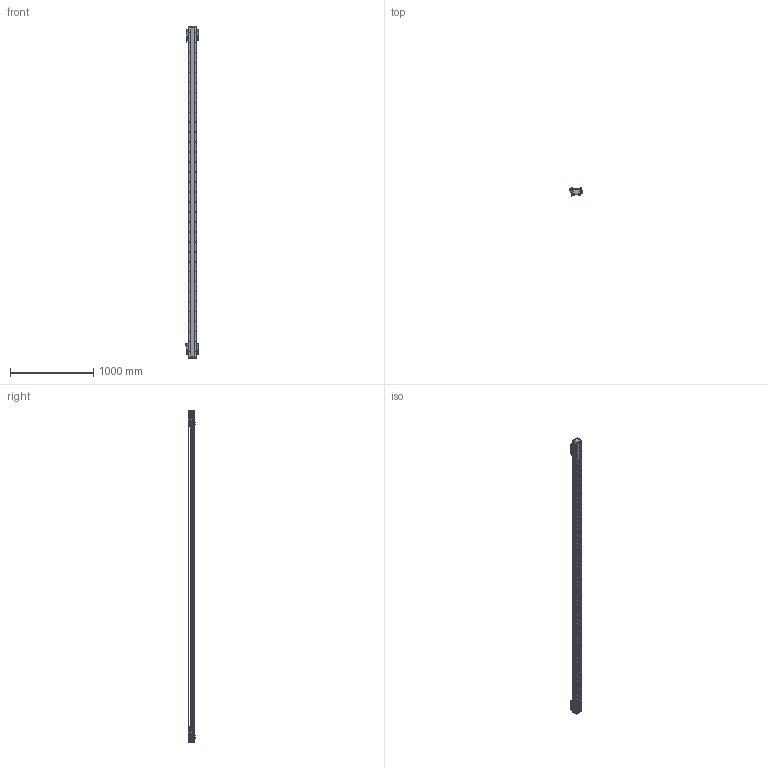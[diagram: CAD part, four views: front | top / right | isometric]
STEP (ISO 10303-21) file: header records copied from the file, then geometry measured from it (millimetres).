
FILE_DESCRIPTION (( 'STEP AP203' ), '1' );
FILE_NAME ('DA-B95-2-B15-T3620-C010-0.2 直线电机.STEP', '2023-05-06T06:51:57', ( '微软用户' ), ( '微软中国' ), 'SwSTEP 2.0', 'SolidWorks 2019', '' );
FILE_SCHEMA (( 'CONFIG_CONTROL_DESIGN' ));
Length unit declared in the file: millimetre
Products named in the file (34): 复件 DA95-DK-00 挡块^66245-BU95-V 滚珠滑台; 复件 六角薄螺母 M3^DA-A95-B15-T-C010-0.2-N 直线电机_GB_FASTENER_NUT_STNAB M3-C; DA95-HXJ-00 缓冲橡胶^DA-A95-B15-T-C010-0.2-N 直线电机; 复件 纯铜油杯 6x6mm^66245-BU95-V 滚珠滑台; LMDK-2-R001-V5-L02-C1-F00，0.2M 读数头^DA-A95-B15-T-C010-0.2-N 直线电机_DMA-010-0.2; 复件 DA95-B15-YB-B-00 压板B^66245-BU95-V 滚珠滑台; 葩璃 DA95-GT-T-00^IU-BU95-L 菁釱絳寢_DA95; 66245-BU95-V 幗紩賑怢; 复件 66245-BU95-HT-V-01 滑动台板^66245-BU95-V-00 一体化滑动台板; 66245-BU95-V-00 珨极趙賑雄怢啣; 复件 DA95-MFP-01 密封片^66245-BU95-V 滚珠滑台; DA-A95-GYP-00 光电感应片^DA-A95-B15-T-C010-0.2-N 直线电机; 复件 复件 18252-0001-004-00 钢带端盖^DA-A95-B15-T-C010-0.2-N 直线电机; 复件 DKW-KGZ-ZJ-00 中间光电开关支架^DA-A95-B15-T-C010-0.2-N 直线电机; IU-BU95-L 菁釱絳寢; PM-T45 光电开关^DA-A95-B15-T-C010-0.2-N 直线电机; 复件 DA95-B15 钢带盖板^DA-A95-B15-T-C010-0.2-N 直线电机; 复件 复件 18252-0001-002-00 钢带垫块^DA-A95-B15-T-C010-0.2-N 直线电机; 葩璃 BKMA01-W060-TRL^DA-A95-B15-T-C010-0.2-N 眻盄萇儂; 葩璃 BKM015-W060-C1-TP-DA-0.2^DA-A95-B15-T-C010-0.2-N 眻盄萇儂; DA-B95-2-B15-T3620-C010-0.2 眻盄萇儂; 复件 DA95-DB-00  挡板^66245-BU95-V 滚珠滑台; 复件 DKW-GYP-ZJ-00 中间光电感应片^DA-A95-B15-T-C010-0.2-N 直线电机; 复件 DA95-B15-YB-A-00 压板A^66245-BU95-V 滚珠滑台; 复件 DKW-HXJ-JY-00 缓冲橡胶^DA-A95-B15-T-C010-0.2-N 直线电机; 葩璃 PM-Y45^DA-A95-B15-T-C010-0.2-N 眻盄萇儂; 葩璃 DA95-B15-DP-A-00 菜えA^66245-BU95-V 幗紩賑怢; 复件 复件 18252-0001-003-00 钢带拉块^DA-A95-B15-T-C010-0.2-N 直线电机; 葩璃 DA95-B15-DP--B-00 菜えB^66245-BU95-V 幗紩賑怢; 复件 DA95-HK-GT-00 滑块钢轨^66245-BU95-V-00 一体化滑动台板; B15 XD-U-02L ｴﾅﾕ､ｳﾟ^DA-A95-B15-T-C010-0.2-N ﾖｱﾏﾟｵ扈銈XD-U-02L; IU-BU95-L-00 菁釱_L3960
Assembly tree (80 placements, depth 4):
  DA-B95-2-B15-T3620-C010-0.2 眻盄萇儂
    IU-BU95-L 菁釱絳寢
      IU-BU95-L-00 菁釱_L3960
      葩璃 DA95-GT-T-00^IU-BU95-L 菁釱絳寢_DA95  x2
    66245-BU95-V 幗紩賑怢
      66245-BU95-V-00 珨极趙賑雄怢啣
        复件 66245-BU95-HT-V-01 滑动台板^66245-BU95-V-00 一体化滑动台板
        复件 DA95-HK-GT-00 滑块钢轨^66245-BU95-V-00 一体化滑动台板  x2
      葩璃 DA95-B15-DP-A-00 菜えA^66245-BU95-V 幗紩賑怢
      复件 DA95-B15-YB-A-00 压板A^66245-BU95-V 滚珠滑台
      复件 DA95-B15-YB-B-00 压板B^66245-BU95-V 滚珠滑台
      复件 DA95-DB-00  挡板^66245-BU95-V 滚珠滑台  x4
      复件 DA95-DK-00 挡块^66245-BU95-V 滚珠滑台  x2
      复件 DA95-MFP-01 密封片^66245-BU95-V 滚珠滑台  x4
      复件 纯铜油杯 6x6mm^66245-BU95-V 滚珠滑台  x2
      葩璃 DA95-B15-DP--B-00 菜えB^66245-BU95-V 幗紩賑怢
    66245-BU95-V 幗紩賑怢
      66245-BU95-V-00 珨极趙賑雄怢啣
        复件 66245-BU95-HT-V-01 滑动台板^66245-BU95-V-00 一体化滑动台板
        复件 DA95-HK-GT-00 滑块钢轨^66245-BU95-V-00 一体化滑动台板  x2
      葩璃 DA95-B15-DP-A-00 菜えA^66245-BU95-V 幗紩賑怢
      复件 DA95-B15-YB-A-00 压板A^66245-BU95-V 滚珠滑台
      复件 DA95-B15-YB-B-00 压板B^66245-BU95-V 滚珠滑台
      复件 DA95-DB-00  挡板^66245-BU95-V 滚珠滑台  x4
      复件 DA95-DK-00 挡块^66245-BU95-V 滚珠滑台  x2
      复件 DA95-MFP-01 密封片^66245-BU95-V 滚珠滑台  x4
      复件 纯铜油杯 6x6mm^66245-BU95-V 滚珠滑台  x2
      葩璃 DA95-B15-DP--B-00 菜えB^66245-BU95-V 幗紩賑怢
    DA-A95-GYP-00 光电感应片^DA-A95-B15-T-C010-0.2-N 直线电机  x2
    LMDK-2-R001-V5-L02-C1-F00，0.2M 读数头^DA-A95-B15-T-C010-0.2-N 直线电机_DMA-010-0.2  x2
    复件 DKW-KGZ-ZJ-00 中间光电开关支架^DA-A95-B15-T-C010-0.2-N 直线电机
    葩璃 PM-Y45^DA-A95-B15-T-C010-0.2-N 眻盄萇儂
    复件 DKW-GYP-ZJ-00 中间光电感应片^DA-A95-B15-T-C010-0.2-N 直线电机
    葩璃 BKM015-W060-C1-TP-DA-0.2^DA-A95-B15-T-C010-0.2-N 眻盄萇儂  x2
    复件 DKW-HXJ-JY-00 缓冲橡胶^DA-A95-B15-T-C010-0.2-N 直线电机  x2
    PM-T45 光电开关^DA-A95-B15-T-C010-0.2-N 直线电机  x4
    B15 XD-U-02L ｴﾅﾕ､ｳﾟ^DA-A95-B15-T-C010-0.2-N ﾖｱﾏﾟｵ扈銈XD-U-02L
    复件 复件 18252-0001-003-00 钢带拉块^DA-A95-B15-T-C010-0.2-N 直线电机  x2
    复件 复件 18252-0001-002-00 钢带垫块^DA-A95-B15-T-C010-0.2-N 直线电机  x2
    复件 复件 18252-0001-004-00 钢带端盖^DA-A95-B15-T-C010-0.2-N 直线电机  x2
    复件 DA95-B15 钢带盖板^DA-A95-B15-T-C010-0.2-N 直线电机
    DA95-HXJ-00 缓冲橡胶^DA-A95-B15-T-C010-0.2-N 直线电机  x4
    葩璃 BKMA01-W060-TRL^DA-A95-B15-T-C010-0.2-N 眻盄萇儂
    复件 六角薄螺母 M3^DA-A95-B15-T-C010-0.2-N 直线电机_GB_FASTENER_NUT_STNAB M3-C  x6
Bounding box: 145.4 x 90.2 x 3996 mm (x, y, z)
Volume: 12262824.4 mm3; surface area: 4122061.2 mm2
Topology: 75 solids, 93 shells, 4828 faces, 14140 edges, 9039 vertices
Faces by surface type: cylinder 2637, plane 1659, cone 464, torus 64, sphere 4
Entity records: 132036 total; most frequent: CARTESIAN_POINT 37138, ORIENTED_EDGE 19638, DIRECTION 18424, EDGE_CURVE 9819, AXIS2_PLACEMENT_3D 7077, VERTEX_POINT 6441, LINE 4270, VECTOR 4270
